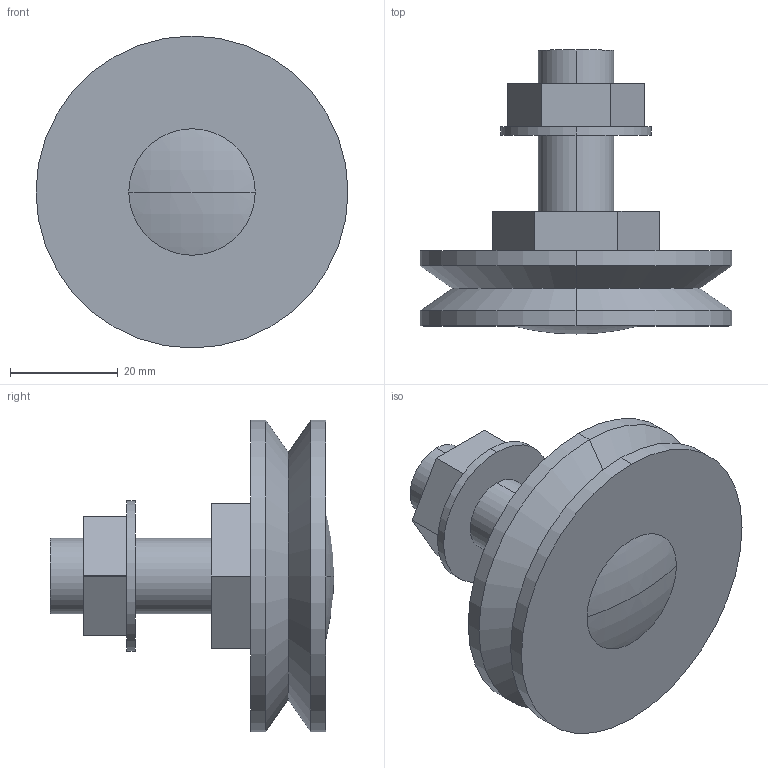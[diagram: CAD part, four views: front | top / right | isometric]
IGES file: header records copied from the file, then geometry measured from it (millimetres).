
Start section: 3D InterOp IGES (v. 2019 1.0.2), Spatial Corp. Copyright (c) 1999-2017.
Global section: file name: GLJ 580 C.igs; native system: Spatial Corp.; preprocessor: 3D InterOp GENERIC/IGES 3.0; author: Noname; organization: Noname; date: 20220628.170611; units: millimetre
Bounding box: 58 x 52.8 x 58 mm (x, y, z)
Surface area: 11954.5 mm2 (no closed solid volume)
Topology: 0 solids, 0 shells, 35 faces, 152 edges, 152 vertices
Faces by surface type: extrusion 19, revolution 16
